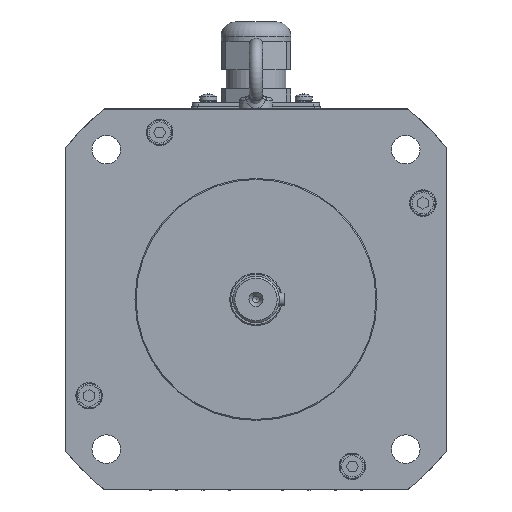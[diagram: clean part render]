
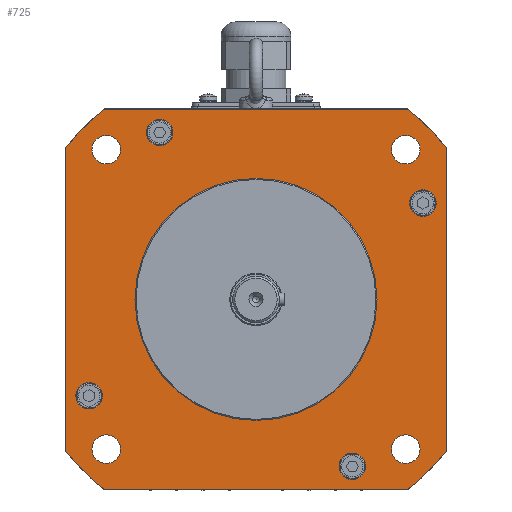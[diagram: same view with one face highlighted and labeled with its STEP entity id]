
A CAD part, front view. The second image highlights one B-rep face of the part: STEP entity #725.
In plain terms, the highlighted planar face has unit normal (0, -1, 0).
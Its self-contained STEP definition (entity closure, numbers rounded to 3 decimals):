
#725=ADVANCED_FACE('',(#3047,#3048,#3049,#3050,#3051,#3052,#3053,#3054,#3055,#3056),#3057,.F.);
#3047=FACE_BOUND('',#6770,.T.);
#3048=FACE_BOUND('',#6771,.T.);
#3049=FACE_BOUND('',#6772,.T.);
#3050=FACE_BOUND('',#6773,.T.);
#3051=FACE_BOUND('',#6774,.T.);
#3052=FACE_BOUND('',#6775,.T.);
#3053=FACE_BOUND('',#6776,.T.);
#3054=FACE_BOUND('',#6777,.T.);
#3055=FACE_BOUND('',#6778,.T.);
#3056=FACE_OUTER_BOUND('',#6779,.T.);
#3057=PLANE('',#6780);
#6770=EDGE_LOOP('',(#15516));
#6771=EDGE_LOOP('',(#15517));
#6772=EDGE_LOOP('',(#15518));
#6773=EDGE_LOOP('',(#15519));
#6774=EDGE_LOOP('',(#15520));
#6775=EDGE_LOOP('',(#15521));
#6776=EDGE_LOOP('',(#15522));
#6777=EDGE_LOOP('',(#15523));
#6778=EDGE_LOOP('',(#15524));
#6779=EDGE_LOOP('',(#15525,#15526,#15527,#15528,#15529,#15530,#15531,#15532));
#6780=AXIS2_PLACEMENT_3D('',#15533,#15534,#15535);
#15516=ORIENTED_EDGE('',*,*,#25005,.T.);
#15517=ORIENTED_EDGE('',*,*,#25004,.T.);
#15518=ORIENTED_EDGE('',*,*,#25003,.T.);
#15519=ORIENTED_EDGE('',*,*,#25001,.T.);
#15520=ORIENTED_EDGE('',*,*,#25006,.T.);
#15521=ORIENTED_EDGE('',*,*,#24764,.T.);
#15522=ORIENTED_EDGE('',*,*,#24769,.T.);
#15523=ORIENTED_EDGE('',*,*,#24775,.T.);
#15524=ORIENTED_EDGE('',*,*,#24780,.T.);
#15525=ORIENTED_EDGE('',*,*,#25007,.T.);
#15526=ORIENTED_EDGE('',*,*,#25008,.T.);
#15527=ORIENTED_EDGE('',*,*,#24885,.T.);
#15528=ORIENTED_EDGE('',*,*,#24882,.T.);
#15529=ORIENTED_EDGE('',*,*,#24880,.T.);
#15530=ORIENTED_EDGE('',*,*,#25009,.T.);
#15531=ORIENTED_EDGE('',*,*,#25010,.T.);
#15532=ORIENTED_EDGE('',*,*,#25011,.T.);
#15533=CARTESIAN_POINT('',(57.15,-21.0,0.));
#15534=DIRECTION('',(0.,1.0,0.));
#15535=DIRECTION('',(0.0,0.,-1.0));
#24764=EDGE_CURVE('',#30022,#30022,#30023,.T.);
#24769=EDGE_CURVE('',#30031,#30031,#30032,.T.);
#24775=EDGE_CURVE('',#30041,#30041,#30042,.T.);
#24780=EDGE_CURVE('',#30050,#30050,#30051,.T.);
#24880=EDGE_CURVE('',#30212,#30210,#30213,.T.);
#24882=EDGE_CURVE('',#30215,#30212,#30216,.T.);
#24885=EDGE_CURVE('',#30219,#30215,#30220,.T.);
#25001=EDGE_CURVE('',#30380,#30380,#30381,.T.);
#25003=EDGE_CURVE('',#30384,#30384,#30385,.T.);
#25004=EDGE_CURVE('',#30386,#30386,#30387,.T.);
#25005=EDGE_CURVE('',#30388,#30388,#30389,.T.);
#25006=EDGE_CURVE('',#30390,#30390,#30391,.T.);
#25007=EDGE_CURVE('',#30392,#30393,#30394,.T.);
#25008=EDGE_CURVE('',#30393,#30219,#30395,.T.);
#25009=EDGE_CURVE('',#30210,#30396,#30397,.T.);
#25010=EDGE_CURVE('',#30396,#30398,#30399,.T.);
#25011=EDGE_CURVE('',#30398,#30392,#30400,.T.);
#30022=VERTEX_POINT('',#38010);
#30023=CIRCLE('',#38011,6.25);
#30031=VERTEX_POINT('',#38019);
#30032=CIRCLE('',#38020,6.25);
#30041=VERTEX_POINT('',#38029);
#30042=CIRCLE('',#38030,6.25);
#30050=VERTEX_POINT('',#38039);
#30051=CIRCLE('',#38040,6.25);
#30210=VERTEX_POINT('',#38263);
#30212=VERTEX_POINT('',#38266);
#30213=CIRCLE('',#38267,114.9);
#30215=VERTEX_POINT('',#38270);
#30216=LINE('',#38271,#38272);
#30219=VERTEX_POINT('',#38277);
#30220=CIRCLE('',#38278,114.9);
#30380=VERTEX_POINT('',#38512);
#30381=CIRCLE('',#38513,6.75);
#30384=VERTEX_POINT('',#38516);
#30385=CIRCLE('',#38517,6.75);
#30386=VERTEX_POINT('',#38518);
#30387=CIRCLE('',#38519,6.75);
#30388=VERTEX_POINT('',#38520);
#30389=CIRCLE('',#38521,57.15);
#30390=VERTEX_POINT('',#38522);
#30391=CIRCLE('',#38523,6.75);
#30392=VERTEX_POINT('',#38524);
#30393=VERTEX_POINT('',#38525);
#30394=CIRCLE('',#38526,114.9);
#30395=LINE('',#38527,#38528);
#30396=VERTEX_POINT('',#38529);
#30397=LINE('',#38530,#38531);
#30398=VERTEX_POINT('',#38532);
#30399=CIRCLE('',#38533,114.9);
#30400=LINE('',#38534,#38535);
#38010=CARTESIAN_POINT('',(-72.558,-21.0,-45.5));
#38011=AXIS2_PLACEMENT_3D('',#46314,#46315,#46316);
#38019=CARTESIAN_POINT('',(45.5,-21.0,-72.558));
#38020=AXIS2_PLACEMENT_3D('',#46329,#46330,#46331);
#38029=CARTESIAN_POINT('',(72.558,-21.0,45.5));
#38030=AXIS2_PLACEMENT_3D('',#46347,#46348,#46349);
#38039=CARTESIAN_POINT('',(-45.5,-21.0,72.558));
#38040=AXIS2_PLACEMENT_3D('',#46360,#46361,#46362);
#38263=CARTESIAN_POINT('',(-71.554,-21.0,-89.9));
#38266=CARTESIAN_POINT('',(-89.9,-21.0,-71.554));
#38267=AXIS2_PLACEMENT_3D('',#46530,#46531,#46532);
#38270=CARTESIAN_POINT('',(-89.9,-21.0,71.554));
#38271=CARTESIAN_POINT('',(-89.9,-21.0,-71.589));
#38272=VECTOR('',#46534,1.0);
#38277=CARTESIAN_POINT('',(-71.554,-21.0,89.9));
#38278=AXIS2_PLACEMENT_3D('',#46537,#46538,#46539);
#38512=CARTESIAN_POINT('',(63.961,-21.0,-70.711));
#38513=AXIS2_PLACEMENT_3D('',#46737,#46738,#46739);
#38516=CARTESIAN_POINT('',(-77.461,-21.0,-70.711));
#38517=AXIS2_PLACEMENT_3D('',#46743,#46744,#46745);
#38518=CARTESIAN_POINT('',(-77.461,-21.0,70.711));
#38519=AXIS2_PLACEMENT_3D('',#46746,#46747,#46748);
#38520=CARTESIAN_POINT('',(57.15,-21.0,0.));
#38521=AXIS2_PLACEMENT_3D('',#46749,#46750,#46751);
#38522=CARTESIAN_POINT('',(63.961,-21.0,70.711));
#38523=AXIS2_PLACEMENT_3D('',#46752,#46753,#46754);
#38524=CARTESIAN_POINT('',(89.9,-21.0,71.554));
#38525=CARTESIAN_POINT('',(71.554,-21.0,89.9));
#38526=AXIS2_PLACEMENT_3D('',#46755,#46756,#46757);
#38527=CARTESIAN_POINT('',(-71.589,-21.0,89.9));
#38528=VECTOR('',#46758,1.0);
#38529=CARTESIAN_POINT('',(71.554,-21.0,-89.9));
#38530=CARTESIAN_POINT('',(71.589,-21.0,-89.9));
#38531=VECTOR('',#46759,1.0);
#38532=CARTESIAN_POINT('',(89.9,-21.0,-71.554));
#38533=AXIS2_PLACEMENT_3D('',#46760,#46761,#46762);
#38534=CARTESIAN_POINT('',(89.9,-21.0,71.589));
#38535=VECTOR('',#46763,1.0);
#46314=CARTESIAN_POINT('',(-78.808,-21.0,-45.5));
#46315=DIRECTION('',(0.,1.0,0.));
#46316=DIRECTION('',(1.0,0.,0.));
#46329=CARTESIAN_POINT('',(45.5,-21.0,-78.808));
#46330=DIRECTION('',(0.,1.0,0.));
#46331=DIRECTION('',(0.,0.,1.0));
#46347=CARTESIAN_POINT('',(78.808,-21.0,45.5));
#46348=DIRECTION('',(0.,1.0,0.));
#46349=DIRECTION('',(-1.0,0.,0.));
#46360=CARTESIAN_POINT('',(-45.5,-21.0,78.808));
#46361=DIRECTION('',(0.,1.0,0.));
#46362=DIRECTION('',(0.,0.,-1.0));
#46530=CARTESIAN_POINT('',(0.,-21.0,0.));
#46531=DIRECTION('',(0.,-1.0,0.));
#46532=DIRECTION('',(-1.0,0.,0.));
#46534=DIRECTION('',(0.,0.,-1.0));
#46537=CARTESIAN_POINT('',(0.,-21.0,0.));
#46538=DIRECTION('',(0.,-1.0,0.));
#46539=DIRECTION('',(-1.0,0.,0.));
#46737=CARTESIAN_POINT('',(70.711,-21.0,-70.711));
#46738=DIRECTION('',(0.,1.0,0.));
#46739=DIRECTION('',(-1.0,0.,0.));
#46743=CARTESIAN_POINT('',(-70.711,-21.0,-70.711));
#46744=DIRECTION('',(0.,1.0,0.));
#46745=DIRECTION('',(-1.0,0.,0.));
#46746=CARTESIAN_POINT('',(-70.711,-21.0,70.711));
#46747=DIRECTION('',(0.,1.0,0.));
#46748=DIRECTION('',(-1.0,0.,0.));
#46749=CARTESIAN_POINT('',(0.,-21.0,0.));
#46750=DIRECTION('',(0.,1.0,0.));
#46751=DIRECTION('',(1.0,0.,0.));
#46752=CARTESIAN_POINT('',(70.711,-21.0,70.711));
#46753=DIRECTION('',(0.,1.0,0.));
#46754=DIRECTION('',(-1.0,0.,0.));
#46755=CARTESIAN_POINT('',(0.,-21.0,0.));
#46756=DIRECTION('',(0.,-1.0,0.));
#46757=DIRECTION('',(-1.0,0.,0.));
#46758=DIRECTION('',(-1.0,0.,0.));
#46759=DIRECTION('',(1.0,0.,0.));
#46760=CARTESIAN_POINT('',(0.,-21.0,0.));
#46761=DIRECTION('',(0.,-1.0,0.));
#46762=DIRECTION('',(-1.0,0.,0.));
#46763=DIRECTION('',(0.,0.,1.0));
